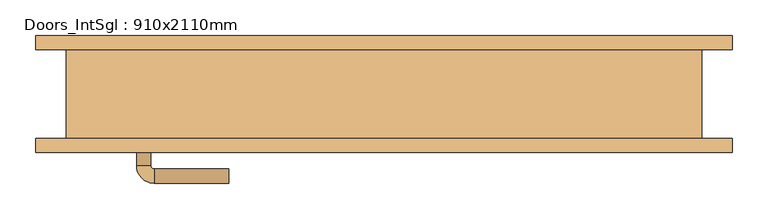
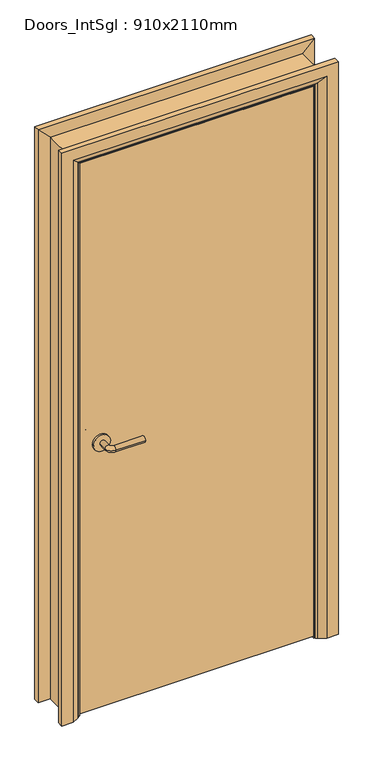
"""IFC4 building model written with IfcOpenShell, lengths in millimetres: door geometry, Doors_IntSgl : 910x2110mm."""

from ifc_helpers import new_model, si_unit, point, frame, frame_2d, origin, place, context, project, spatial, polyline, circle_curve, ellipse_curve, trimmed, segment, composite_curve, outline, extrude, faceted_brep, source, transform, mapped, element, save
from ifc_brep_helpers import plane_surface, cylinder_surface, revolved_surface, advanced_brep


def doors_intsgl_910x2110mm_76b165e6(model_context):
    return source(origin(), model_context, "Body", "SolidModel", [
        advanced_brep(
        [(-348.0, -16.5, 1000.0), (-328.0, -16.5, 1000.0), (-348.0, 13.5, 1000.0), (-328.0, 13.5, 1000.0), (-323.0, 18.5, 1000.0), (-323.0, 38.5, 1000.0), (-218.0, 38.5, 1000.0), (-218.0, 18.5, 1000.0)],
        [
            (0, 1, circle_curve(frame((-338.0, -16.5, 1000.0), z_axis=(0.0, -1.0, 0.0), x_axis=(1.0, 0.0, 0.0)), 10.0)),
            (1, 0, circle_curve(frame((-338.0, -16.5, 1000.0), z_axis=(0.0, -1.0, 0.0), x_axis=(1.0, 0.0, 0.0)), 10.0)),
            (0, 2),
            (2, 3, circle_curve(frame((-338.0, 13.5, 1000.0), z_axis=(0.0, -1.0, 0.0), x_axis=(1.0, 0.0, 0.0)), 10.0)),
            (3, 1),
            (3, 2, circle_curve(frame((-338.0, 13.5, 1000.0), z_axis=(0.0, -1.0, 0.0), x_axis=(1.0, 0.0, 0.0)), 10.0)),
            (4, 3, circle_curve(frame((-323.0, 13.5, 1000.0), z_axis=(0.0, 0.0, 1.0), x_axis=(-1.0, 0.0, 0.0)), 5.0)),
            (2, 5, circle_curve(frame((-323.0, 13.5, 1000.0), z_axis=(0.0, 0.0, -1.0), x_axis=(-1.0, 0.0, 0.0)), 25.0)),
            (5, 4, circle_curve(frame((-323.0, 28.5, 1000.0), z_axis=(-1.0, 0.0, 0.0), x_axis=(0.0, -1.0, 0.0)), 10.0)),
            (4, 5, circle_curve(frame((-323.0, 28.5, 1000.0), z_axis=(-1.0, 0.0, 0.0), x_axis=(0.0, -1.0, 0.0)), 10.0)),
            (6, 7, circle_curve(frame((-218.0, 28.5, 1000.0), z_axis=(1.0, 0.0, 0.0), x_axis=(0.0, -1.0, 0.0)), 10.0)),
            (7, 6, circle_curve(frame((-218.0, 28.5, 1000.0), z_axis=(1.0, 0.0, 0.0), x_axis=(0.0, -1.0, 0.0)), 10.0)),
            (5, 6),
            (7, 4),
        ],
        [
            plane_surface(frame((-338.0, -16.5, 1000.0), z_axis=(0.0, -1.0, 0.0), x_axis=(0.0, 0.0, 1.0))),
            cylinder_surface(frame((-338.0, -16.5, 1000.0), z_axis=(0.0, -1.0, 0.0), x_axis=(1.0, 0.0, 0.0)), 10.0),
            revolved_surface(trimmed(ellipse_curve(frame((-338.0, 13.5, 1000.0), z_axis=(0.0, -1.0, 0.0), x_axis=(1.0, 0.0, 0.0)), 10.0, 10.0), [point((-348.0, 13.5, 1000.0))], [point((-328.0, 13.5, 1000.0))], True, "CARTESIAN"), (-323.0, 13.5, 1000.0), (0.0, 0.0, -1.0)),
            revolved_surface(trimmed(ellipse_curve(frame((-338.0, 13.5, 1000.0), z_axis=(0.0, -1.0, 0.0), x_axis=(1.0, 0.0, 0.0)), 10.0, 10.0), [point((-328.0, 13.5, 1000.0))], [point((-348.0, 13.5, 1000.0))], True, "CARTESIAN"), (-323.0, 13.5, 1000.0), (0.0, 0.0, -1.0)),
            plane_surface(frame((-218.0, 28.5, 1000.0), z_axis=(1.0, 0.0, 0.0), x_axis=(0.0, 0.0, 1.0))),
            cylinder_surface(frame((-323.0, 28.5, 1000.0), z_axis=(-1.0, 0.0, 0.0), x_axis=(0.0, -1.0, 0.0)), 10.0),
        ],
        [
            (0, [[1, 2]]),
            (1, [[-1, 3, 4, 5]]),
            (1, [[-2, -5, 6, -3]]),
            (2, [[7, -4, 8, 9]]),
            (3, [[-8, -6, -7, 10]]),
            (4, [[11, 12]]),
            (5, [[-9, 13, -12, 14]]),
            (5, [[-10, -14, -11, -13]]),
        ],
    ),
        extrude(outline(composite_curve([segment(trimmed(circle_curve(frame_2d((1000.0, -340.5)), 30.0), [point((1000.0, -370.5))], [point((1000.0, -310.5))], False, "CARTESIAN"), True, "CONTINUOUS"), segment(trimmed(circle_curve(frame_2d((1000.0, -340.5)), 30.0), [point((1000.0, -310.5))], [point((1000.0, -370.5))], False, "CARTESIAN"), True, "CONTINUOUS")], self_intersect=False)), frame((0.0, -24.5, 0.0), z_axis=(0.0, 1.0, 0.0), x_axis=(0.0, 0.0, 1.0)), (0.0, 0.0, 1.0), 8.0),
        advanced_brep(
        [(-348.0, -70.5, 1000.0), (-328.0, -70.5, 1000.0), (-328.0, -100.5, 1000.0), (-348.0, -100.5, 1000.0), (-323.0, -105.5, 1000.0), (-323.0, -125.5, 1000.0), (-218.0, -125.5, 1000.0), (-218.0, -105.5, 1000.0)],
        [
            (0, 1, circle_curve(frame((-338.0, -70.5, 1000.0), z_axis=(0.0, 1.0, 0.0), x_axis=(1.0, 0.0, 0.0)), 10.0)),
            (1, 0, circle_curve(frame((-338.0, -70.5, 1000.0), z_axis=(0.0, 1.0, 0.0), x_axis=(1.0, 0.0, 0.0)), 10.0)),
            (1, 2),
            (2, 3, circle_curve(frame((-338.0, -100.5, 1000.0), z_axis=(0.0, 1.0, 0.0), x_axis=(1.0, 0.0, 0.0)), 10.0)),
            (3, 0),
            (3, 2, circle_curve(frame((-338.0, -100.5, 1000.0), z_axis=(0.0, 1.0, 0.0), x_axis=(1.0, 0.0, 0.0)), 10.0)),
            (4, 5, circle_curve(frame((-323.0, -115.5, 1000.0), z_axis=(-1.0, 0.0, 0.0), x_axis=(0.0, 1.0, 0.0)), 10.0)),
            (5, 3, circle_curve(frame((-323.0, -100.5, 1000.0), z_axis=(0.0, 0.0, -1.0), x_axis=(-1.0, 0.0, 0.0)), 25.0)),
            (2, 4, circle_curve(frame((-323.0, -100.5, 1000.0), z_axis=(0.0, 0.0, 1.0), x_axis=(-1.0, 0.0, 0.0)), 5.0)),
            (5, 4, circle_curve(frame((-323.0, -115.5, 1000.0), z_axis=(-1.0, 0.0, 0.0), x_axis=(0.0, 1.0, 0.0)), 10.0)),
            (6, 7, circle_curve(frame((-218.0, -115.5, 1000.0), z_axis=(1.0, 0.0, 0.0), x_axis=(0.0, 1.0, 0.0)), 10.0)),
            (7, 6, circle_curve(frame((-218.0, -115.5, 1000.0), z_axis=(1.0, 0.0, 0.0), x_axis=(0.0, 1.0, 0.0)), 10.0)),
            (4, 7),
            (6, 5),
        ],
        [
            plane_surface(frame((-338.0, -70.5, 1000.0), z_axis=(0.0, 1.0, 0.0), x_axis=(0.0, 0.0, 1.0))),
            cylinder_surface(frame((-338.0, -70.5, 1000.0), z_axis=(0.0, 1.0, 0.0), x_axis=(1.0, 0.0, 0.0)), 10.0),
            revolved_surface(trimmed(ellipse_curve(frame((-338.0, -100.5, 1000.0), z_axis=(0.0, -1.0, 0.0), x_axis=(1.0, 0.0, 0.0)), 10.0, 10.0), [point((-348.0, -100.5, 1000.0))], [point((-328.0, -100.5, 1000.0))], True, "CARTESIAN"), (-323.0, -100.5, 1000.0), (0.0, 0.0, -1.0)),
            revolved_surface(trimmed(ellipse_curve(frame((-338.0, -100.5, 1000.0), z_axis=(0.0, -1.0, 0.0), x_axis=(1.0, 0.0, 0.0)), 10.0, 10.0), [point((-328.0, -100.5, 1000.0))], [point((-348.0, -100.5, 1000.0))], True, "CARTESIAN"), (-323.0, -100.5, 1000.0), (0.0, 0.0, -1.0)),
            plane_surface(frame((-218.0, -115.5, 1000.0), z_axis=(1.0, 0.0, 0.0), x_axis=(0.0, 0.0, 1.0))),
            cylinder_surface(frame((-323.0, -115.5, 1000.0), z_axis=(-1.0, 0.0, 0.0), x_axis=(0.0, 1.0, 0.0)), 10.0),
        ],
        [
            (0, [[1, 2]]),
            (1, [[3, 4, 5, -2]]),
            (1, [[-5, 6, -3, -1]]),
            (2, [[7, 8, -4, 9]]),
            (3, [[10, -9, -6, -8]]),
            (4, [[11, 12]]),
            (5, [[13, -11, 14, -7]]),
            (5, [[-14, -12, -13, -10]]),
        ],
    ),
        extrude(outline(composite_curve([segment(trimmed(circle_curve(frame_2d((1000.0, -340.5)), 30.0), [point((1000.0, -370.5))], [point((1000.0, -310.5))], False, "CARTESIAN"), True, "CONTINUOUS"), segment(trimmed(circle_curve(frame_2d((1000.0, -340.5)), 30.0), [point((1000.0, -310.5))], [point((1000.0, -370.5))], False, "CARTESIAN"), True, "CONTINUOUS")], self_intersect=False)), frame((0.0, -70.5, 0.0), z_axis=(0.0, 1.0, 0.0), x_axis=(0.0, 0.0, 1.0)), (0.0, 0.0, 1.0), 8.0),
        extrude(outline(polyline([(413.0, -24.5), (413.0, -62.5), (-413.0, -62.5), (-413.0, -24.5), (413.0, -24.5)])), frame((0.0, 0.0, 8.0), z_axis=(0.0, 0.0, 1.0), x_axis=(1.0, 0.0, 0.0)), (0.0, 0.0, 1.0), 2060.0),
        advanced_brep(
        [(490.0, -82.5, 0.0), (450.0, -82.5, 0.0), (424.0, -68.5, 0.0), (420.0, -62.5, 0.0), (490.0, -62.5, 0.0), (490.0, -62.5, 2145.0), (490.0, -82.5, 2145.0), (420.0, -62.5, 2075.0), (-420.0, -62.5, 2075.0), (-420.0, -62.5, 0.0), (-490.0, -62.5, 0.0), (-490.0, -62.5, 2145.0), (424.0, -68.5, 2079.0), (450.0, -82.5, 2105.0), (-490.0, -82.5, 2145.0), (-490.0, -82.5, 0.0), (-450.0, -82.5, 0.0), (-450.0, -82.5, 2105.0), (-424.0, -68.5, 2079.0), (-424.0, -68.5, 0.0)],
        [
            (0, 1),
            (1, 2),
            (2, 3, circle_curve(frame((428.0, -61.5, 0.0), z_axis=(0.0, 0.0, -1.0), x_axis=(1.0, 0.0, 0.0)), 8.0622577)),
            (3, 4),
            (4, 0),
            (4, 5),
            (5, 6),
            (6, 0),
            (3, 7),
            (7, 8),
            (8, 9),
            (9, 10),
            (10, 11),
            (11, 5),
            (2, 12),
            (12, 7, ellipse_curve(frame((428.0, -61.5, 2083.0), z_axis=(0.7071067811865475, 0.0, -0.7071067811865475), x_axis=(-0.7071067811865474, 0.0, -0.7071067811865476)), 11.4017543, 8.0622577)),
            (1, 13),
            (13, 12),
            (6, 14),
            (14, 15),
            (15, 16),
            (16, 17),
            (17, 13),
            (11, 14),
            (12, 18),
            (18, 8, ellipse_curve(frame((-428.0, -61.5, 2083.0), z_axis=(0.7071067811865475, 0.0, 0.7071067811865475), x_axis=(0.7071067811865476, 0.0, -0.7071067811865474)), 11.4017543, 8.0622577)),
            (17, 18),
            (15, 10),
            (9, 19, circle_curve(frame((-428.0, -61.5, 0.0), z_axis=(0.0, 0.0, -1.0), x_axis=(-1.0, 0.0, 0.0)), 8.0622577)),
            (19, 16),
            (18, 19),
        ],
        [
            plane_surface(frame((420.0, -62.5, 0.0), z_axis=(0.0, 0.0, -1.0), x_axis=(0.0, 1.0, 0.0))),
            plane_surface(frame((490.0, -82.5, 0.0), z_axis=(1.0, 0.0, 0.0), x_axis=(0.0, 0.0, 1.0))),
            plane_surface(frame((490.0, -62.5, 0.0), z_axis=(0.0, 1.0, 0.0), x_axis=(0.0, 0.0, 1.0))),
            cylinder_surface(frame((428.0, -61.5, 0.0), z_axis=(0.0, 0.0, -1.0), x_axis=(1.0, 0.0, 0.0)), 8.0622577),
            plane_surface(frame((424.0, -68.5, 0.0), z_axis=(-0.4740998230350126, -0.880471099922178, 0.0), x_axis=(0.0, 0.0, 1.0))),
            plane_surface(frame((450.0, -82.5, 0.0), z_axis=(0.0, -1.0, 0.0), x_axis=(0.0, 0.0, 1.0))),
            plane_surface(frame((490.0, -82.5, 2145.0), z_axis=(0.0, 0.0, 1.0), x_axis=(-1.0, 0.0, 0.0))),
            cylinder_surface(frame((420.0, -61.5, 2083.0), z_axis=(1.0, 0.0, 0.0), x_axis=(0.0, 0.0, 1.0)), 8.0622577),
            plane_surface(frame((424.0, -68.5, 2079.0), z_axis=(0.0, -0.8804710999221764, -0.4740998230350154), x_axis=(-1.0, 0.0, 0.0))),
            plane_surface(frame((-420.0, -62.5, 0.0), z_axis=(0.0, 0.0, -1.0), x_axis=(0.0, 1.0, 0.0))),
            plane_surface(frame((-490.0, -82.5, 2145.0), z_axis=(-1.0, 0.0, 0.0), x_axis=(0.0, 0.0, -1.0))),
            cylinder_surface(frame((-428.0, -61.5, 2075.0), z_axis=(0.0, 0.0, 1.0), x_axis=(-1.0, 0.0, 0.0)), 8.0622577),
            plane_surface(frame((-424.0, -68.5, 2079.0), z_axis=(0.47409982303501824, -0.8804710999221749, 0.0), x_axis=(0.0, 0.0, -1.0))),
        ],
        [
            (0, [[1, 2, 3, 4, 5]]),
            (1, [[6, 7, 8, -5]]),
            (2, [[9, 10, 11, 12, 13, 14, -6, -4]]),
            (3, [[15, 16, -9, -3]]),
            (4, [[17, 18, -15, -2]]),
            (5, [[-8, 19, 20, 21, 22, 23, -17, -1]]),
            (6, [[-14, 24, -19, -7]]),
            (7, [[25, 26, -10, -16]]),
            (8, [[-23, 27, -25, -18]]),
            (9, [[28, -12, 29, 30, -21]]),
            (10, [[-13, -28, -20, -24]]),
            (11, [[31, -29, -11, -26]]),
            (12, [[-22, -30, -31, -27]]),
        ],
    ),
        extrude(outline(polyline([(0.0, -396.0), (2051.0, -396.0), (2051.0, 396.0), (0.0, 396.0), (0.0, 415.0), (2070.0, 415.0), (2070.0, -415.0), (0.0, -415.0), (0.0, -396.0)])), frame((0.0, -22.5, 0.0), z_axis=(0.0, 1.0, 0.0), x_axis=(0.0, 0.0, 1.0)), (0.0, 0.0, 1.0), 32.0),
        advanced_brep(
        [(-490.0, 82.5, 0.0), (-450.0, 82.5, 0.0), (-424.0, 68.5, 0.0), (-420.0, 62.5, 0.0), (-490.0, 62.5, 0.0), (-490.0, 62.5, 2145.0), (-490.0, 82.5, 2145.0), (-420.0, 62.5, 2075.0), (-424.0, 68.5, 2079.0), (-450.0, 82.5, 2105.0), (490.0, 62.5, 2145.0), (490.0, 82.5, 2145.0), (420.0, 62.5, 2075.0), (424.0, 68.5, 2079.0), (450.0, 82.5, 2105.0), (490.0, 82.5, 0.0), (490.0, 62.5, 0.0), (420.0, 62.5, 0.0), (424.0, 68.5, 0.0), (450.0, 82.5, 0.0)],
        [
            (0, 1),
            (1, 2),
            (2, 3, circle_curve(frame((-428.0, 61.5, 0.0), z_axis=(0.0, 0.0, -1.0), x_axis=(-1.0, 0.0, 0.0)), 8.0622577)),
            (3, 4),
            (4, 0),
            (4, 5),
            (5, 6),
            (6, 0),
            (3, 7),
            (7, 5),
            (2, 8),
            (8, 7, ellipse_curve(frame((-428.0, 61.5, 2083.0), z_axis=(-0.7071067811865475, 0.0, -0.7071067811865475), x_axis=(0.7071067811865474, 0.0, -0.7071067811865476)), 11.4017543, 8.0622577)),
            (1, 9),
            (9, 8),
            (6, 9),
            (5, 10),
            (10, 11),
            (11, 6),
            (7, 12),
            (12, 10),
            (8, 13),
            (13, 12, ellipse_curve(frame((428.0, 61.5, 2083.0), z_axis=(-0.7071067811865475, 0.0, 0.7071067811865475), x_axis=(-0.7071067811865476, 0.0, -0.7071067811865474)), 11.4017543, 8.0622577)),
            (9, 14),
            (14, 13),
            (11, 14),
            (15, 16),
            (16, 17),
            (17, 18, circle_curve(frame((428.0, 61.5, 0.0), z_axis=(0.0, 0.0, -1.0), x_axis=(1.0, 0.0, 0.0)), 8.0622577)),
            (18, 19),
            (19, 15),
            (10, 16),
            (15, 11),
            (12, 17),
            (13, 18),
            (14, 19),
        ],
        [
            plane_surface(frame((-420.0, 135.3010989, 0.0), z_axis=(0.0, 0.0, -1.0), x_axis=(1.0, 0.0, 0.0))),
            plane_surface(frame((-490.0, 82.5, 0.0), z_axis=(-1.0, 0.0, 0.0), x_axis=(0.0, 0.0, 1.0))),
            plane_surface(frame((-490.0, 62.5, 0.0), z_axis=(0.0, -1.0, 0.0), x_axis=(0.0, 0.0, 1.0))),
            cylinder_surface(frame((-428.0, 61.5, 0.0), z_axis=(0.0, 0.0, -1.0), x_axis=(-1.0, 0.0, 0.0)), 8.0622577),
            plane_surface(frame((-424.0, 68.5, 0.0), z_axis=(0.4740998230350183, 0.8804710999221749, 0.0), x_axis=(0.0, 0.0, 1.0))),
            plane_surface(frame((-450.0, 82.5, 0.0), z_axis=(0.0, 1.0, 0.0), x_axis=(0.0, 0.0, 1.0))),
            plane_surface(frame((-490.0, 82.5, 2145.0), z_axis=(0.0, 0.0, 1.0), x_axis=(1.0, 0.0, 0.0))),
            plane_surface(frame((-490.0, 62.5, 2145.0), z_axis=(0.0, -1.0, 0.0), x_axis=(1.0, 0.0, 0.0))),
            cylinder_surface(frame((-420.0, 61.5, 2083.0), z_axis=(-1.0, 0.0, 0.0), x_axis=(0.0, 0.0, 1.0)), 8.0622577),
            plane_surface(frame((-424.0, 68.5, 2079.0), z_axis=(0.0, 0.8804710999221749, -0.4740998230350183), x_axis=(1.0, 0.0, 0.0))),
            plane_surface(frame((-450.0, 82.5, 2105.0), z_axis=(0.0, 1.0, 0.0), x_axis=(1.0, 0.0, 0.0))),
            plane_surface(frame((420.0, 135.3010989, 0.0), z_axis=(0.0, 0.0, -1.0), x_axis=(-1.0, 0.0, 0.0))),
            plane_surface(frame((490.0, 82.5, 2145.0), z_axis=(1.0, 0.0, 0.0), x_axis=(0.0, 0.0, -1.0))),
            plane_surface(frame((490.0, 62.5, 2145.0), z_axis=(0.0, -1.0, 0.0), x_axis=(0.0, 0.0, -1.0))),
            cylinder_surface(frame((428.0, 61.5, 2075.0), z_axis=(0.0, 0.0, 1.0), x_axis=(1.0, 0.0, 0.0)), 8.0622577),
            plane_surface(frame((424.0, 68.5, 2079.0), z_axis=(-0.4740998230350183, 0.8804710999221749, 0.0), x_axis=(0.0, 0.0, -1.0))),
            plane_surface(frame((450.0, 82.5, 2105.0), z_axis=(0.0, 1.0, 0.0), x_axis=(0.0, 0.0, -1.0))),
        ],
        [
            (0, [[1, 2, 3, 4, 5]]),
            (1, [[6, 7, 8, -5]]),
            (2, [[9, 10, -6, -4]]),
            (3, [[11, 12, -9, -3]]),
            (4, [[13, 14, -11, -2]]),
            (5, [[-8, 15, -13, -1]]),
            (6, [[16, 17, 18, -7]]),
            (7, [[19, 20, -16, -10]]),
            (8, [[21, 22, -19, -12]]),
            (9, [[23, 24, -21, -14]]),
            (10, [[-18, 25, -23, -15]]),
            (11, [[26, 27, 28, 29, 30]]),
            (12, [[31, -26, 32, -17]]),
            (13, [[33, -27, -31, -20]]),
            (14, [[34, -28, -33, -22]]),
            (15, [[35, -29, -34, -24]]),
            (16, [[-32, -30, -35, -25]]),
        ],
    ),
        faceted_brep([(-415.0, -62.5, 0.0), (-447.0, -62.5, 0.0), (-447.0, 62.5, 0.0), (-415.0, 62.5, 0.0), (-415.0, 62.5, 2070.0), (-415.0, -62.5, 2070.0), (-447.0, 62.5, 2102.0), (-447.0, -62.5, 2102.0), (415.0, 62.5, 2070.0), (415.0, -62.5, 2070.0), (447.0, 62.5, 2102.0), (447.0, -62.5, 2102.0), (415.0, -62.5, 0.0), (415.0, 62.5, 0.0), (447.0, 62.5, 0.0), (447.0, -62.5, 0.0)], [[[0, 1, 2, 3]], [[3, 4, 5, 0]], [[2, 6, 4, 3]], [[1, 7, 6, 2]], [[0, 5, 7, 1]], [[4, 8, 9, 5]], [[6, 10, 8, 4]], [[7, 11, 10, 6]], [[5, 9, 11, 7]], [[12, 13, 14, 15]], [[8, 13, 12, 9]], [[10, 14, 13, 8]], [[11, 15, 14, 10]], [[9, 12, 15, 11]]]),
    ])


if __name__ == "__main__":
    model = new_model("IFC4")
    model_context = context("Model", 3, world=origin())
    ifc_project = project(units=[si_unit("LENGTHUNIT", "METRE", prefix="MILLI")], contexts=[model_context])
    site = spatial("IfcSite", under=ifc_project)
    building = spatial("IfcBuilding", under=site)
    placement = place(None, origin())
    doors_intsgl_910x2110mm_shape = doors_intsgl_910x2110mm_76b165e6(model_context)
    element("IfcDoor", 1, ObjectType="Doors_IntSgl : 910x2110mm", at=placement, inside=building, context=model_context, shape_type="MappedRepresentation", body=[
        mapped(doors_intsgl_910x2110mm_shape, transform((0.0, 0.0, 0.0), x_axis=(1.0, 0.0, 0.0), y_axis=(0.0, 1.0, 0.0), z_axis=(0.0, 0.0, 1.0))),
    ])
    save(model, "model.ifc")
